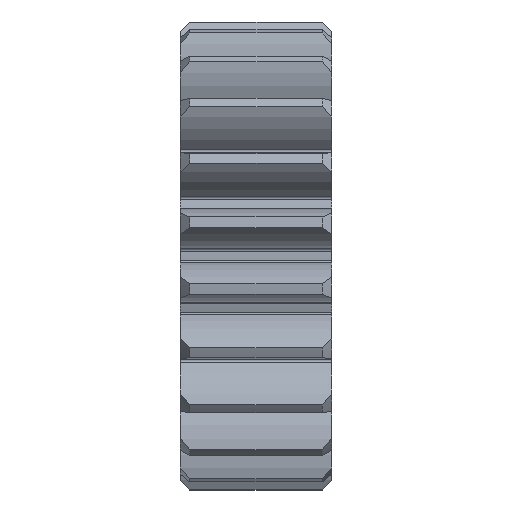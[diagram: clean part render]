
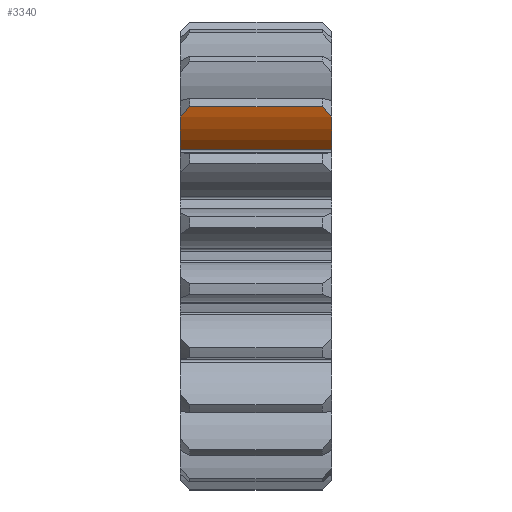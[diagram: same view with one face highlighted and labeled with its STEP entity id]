
A CAD part, top view. The second image highlights one B-rep face of the part: STEP entity #3340.
In plain terms, the highlighted cylindrical face has radius 9.281 mm (diameter 18.563 mm), a partial arc.
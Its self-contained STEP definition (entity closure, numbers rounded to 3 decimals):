
#135=B_SPLINE_CURVE_WITH_KNOTS('',3,(#6154,#6155,#6156,#6157),
 .UNSPECIFIED.,.F.,.F.,(4,4),(1.387,1.533),
 .UNSPECIFIED.);
#136=B_SPLINE_CURVE_WITH_KNOTS('',3,(#6160,#6161,#6162,#6163),
 .UNSPECIFIED.,.F.,.F.,(4,4),(4.193,4.34),
 .UNSPECIFIED.);
#224=CYLINDRICAL_SURFACE('',#3755,9.282);
#391=CIRCLE('',#3579,9.282);
#492=CIRCLE('',#3756,9.282);
#679=FACE_OUTER_BOUND('',#864,.T.);
#864=EDGE_LOOP('',(#2690,#2691,#2692,#2693,#2694,#2695));
#1091=LINE('',#6148,#1233);
#1093=LINE('',#6159,#1235);
#1233=VECTOR('',#4661,10.);
#1235=VECTOR('',#4667,10.);
#1373=VERTEX_POINT('',#5352);
#1374=VERTEX_POINT('',#5354);
#1584=VERTEX_POINT('',#6146);
#1585=VERTEX_POINT('',#6151);
#1586=VERTEX_POINT('',#6153);
#1587=VERTEX_POINT('',#6158);
#1739=EDGE_CURVE('',#1374,#1373,#391,.T.);
#2025=EDGE_CURVE('',#1584,#1373,#1091,.T.);
#2027=EDGE_CURVE('',#1585,#1584,#492,.T.);
#2028=EDGE_CURVE('',#1585,#1586,#135,.T.);
#2029=EDGE_CURVE('',#1586,#1587,#1093,.T.);
#2030=EDGE_CURVE('',#1587,#1374,#136,.T.);
#2690=ORIENTED_EDGE('',*,*,#2025,.F.);
#2691=ORIENTED_EDGE('',*,*,#2027,.F.);
#2692=ORIENTED_EDGE('',*,*,#2028,.T.);
#2693=ORIENTED_EDGE('',*,*,#2029,.T.);
#2694=ORIENTED_EDGE('',*,*,#2030,.T.);
#2695=ORIENTED_EDGE('',*,*,#1739,.T.);
#3340=ADVANCED_FACE('',(#679),#224,.T.);
#3579=AXIS2_PLACEMENT_3D('',#5355,#4198,#4199);
#3755=AXIS2_PLACEMENT_3D('',#6150,#4663,#4664);
#3756=AXIS2_PLACEMENT_3D('',#6152,#4665,#4666);
#4198=DIRECTION('center_axis',(1.,0.,0.));
#4199=DIRECTION('ref_axis',(0.,-0.276,0.961));
#4661=DIRECTION('',(-1.,0.,0.));
#4663=DIRECTION('center_axis',(-1.,0.,0.));
#4664=DIRECTION('ref_axis',(0.,-0.276,0.961));
#4665=DIRECTION('center_axis',(1.,0.,0.));
#4666=DIRECTION('ref_axis',(0.,-0.276,0.961));
#4667=DIRECTION('',(-1.,0.,0.));
#5352=CARTESIAN_POINT('',(-8.,11.276,16.182));
#5354=CARTESIAN_POINT('',(-8.,14.668,18.68));
#5355=CARTESIAN_POINT('Origin',(-8.,18.332,10.152));
#6146=CARTESIAN_POINT('',(8.,11.276,16.182));
#6148=CARTESIAN_POINT('',(0.,11.276,16.182));
#6150=CARTESIAN_POINT('Origin',(8.,18.332,10.152));
#6151=CARTESIAN_POINT('',(8.,14.668,18.68));
#6152=CARTESIAN_POINT('Origin',(8.,18.332,10.152));
#6153=CARTESIAN_POINT('',(7.,15.772,19.074));
#6154=CARTESIAN_POINT('Ctrl Pts',(8.,14.668,18.68));
#6155=CARTESIAN_POINT('Ctrl Pts',(7.659,15.024,18.833));
#6156=CARTESIAN_POINT('Ctrl Pts',(7.325,15.393,18.965));
#6157=CARTESIAN_POINT('Ctrl Pts',(7.,15.772,19.074));
#6158=CARTESIAN_POINT('',(-7.,15.772,19.074));
#6159=CARTESIAN_POINT('',(8.,15.772,19.074));
#6160=CARTESIAN_POINT('Ctrl Pts',(-7.,15.772,19.074));
#6161=CARTESIAN_POINT('Ctrl Pts',(-7.325,15.393,18.965));
#6162=CARTESIAN_POINT('Ctrl Pts',(-7.659,15.024,18.833));
#6163=CARTESIAN_POINT('Ctrl Pts',(-8.,14.668,18.68));
